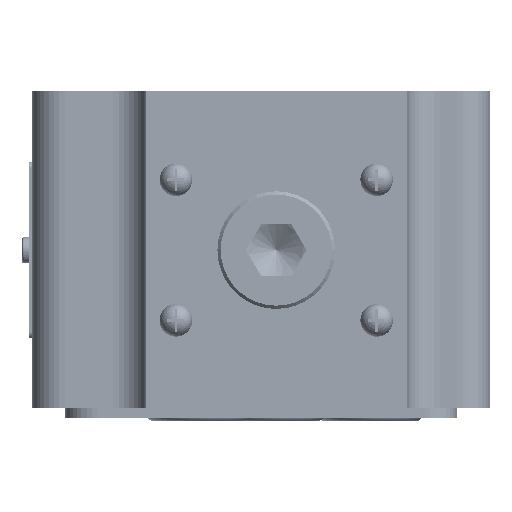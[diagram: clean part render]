
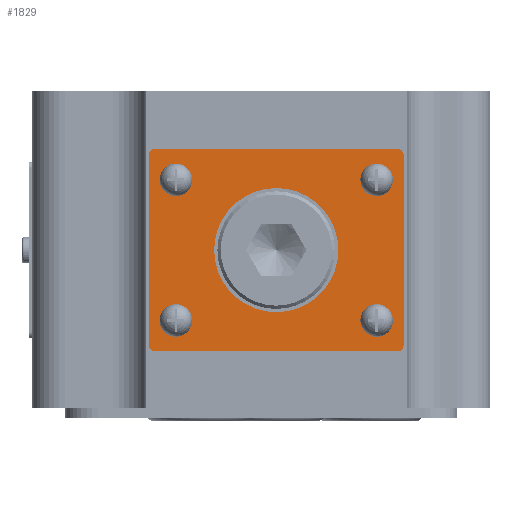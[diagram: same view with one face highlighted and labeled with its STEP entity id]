
A CAD part, left-side view. The second image highlights one B-rep face of the part: STEP entity #1829.
In plain terms, the highlighted planar face has unit normal (-1, 0, 0).
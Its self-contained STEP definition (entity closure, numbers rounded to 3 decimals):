
#628=PLANE('',#9657);
#1217=FACE_BOUND('',#3107,.T.);
#1218=FACE_BOUND('',#3108,.T.);
#1219=FACE_BOUND('',#3109,.T.);
#1220=FACE_BOUND('',#3110,.T.);
#1221=FACE_BOUND('',#3111,.T.);
#1222=FACE_BOUND('',#3112,.T.);
#1829=ADVANCED_FACE('',(#1217,#1218,#1219,#1220,#1221,#1222),#628,.F.);
#3107=EDGE_LOOP('',(#5419,#5420,#5421,#5422,#5423,#5424,#5425,#5426));
#3108=EDGE_LOOP('',(#5427));
#3109=EDGE_LOOP('',(#5428));
#3110=EDGE_LOOP('',(#5429));
#3111=EDGE_LOOP('',(#5430));
#3112=EDGE_LOOP('',(#5431));
#3801=CIRCLE('',#9628,1.);
#3803=CIRCLE('',#9632,1.);
#3805=CIRCLE('',#9636,1.);
#3806=CIRCLE('',#9639,2.);
#3808=CIRCLE('',#9642,9.5);
#3810=CIRCLE('',#9645,2.);
#3812=CIRCLE('',#9648,2.);
#3815=CIRCLE('',#9652,1.);
#3816=CIRCLE('',#9654,2.);
#5419=ORIENTED_EDGE('',*,*,#7814,.F.);
#5420=ORIENTED_EDGE('',*,*,#7843,.F.);
#5421=ORIENTED_EDGE('',*,*,#7832,.F.);
#5422=ORIENTED_EDGE('',*,*,#7829,.F.);
#5423=ORIENTED_EDGE('',*,*,#7826,.F.);
#5424=ORIENTED_EDGE('',*,*,#7823,.F.);
#5425=ORIENTED_EDGE('',*,*,#7820,.F.);
#5426=ORIENTED_EDGE('',*,*,#7817,.F.);
#5427=ORIENTED_EDGE('',*,*,#7840,.T.);
#5428=ORIENTED_EDGE('',*,*,#7838,.T.);
#5429=ORIENTED_EDGE('',*,*,#7836,.T.);
#5430=ORIENTED_EDGE('',*,*,#7834,.T.);
#5431=ORIENTED_EDGE('',*,*,#7844,.T.);
#6849=VERTEX_POINT('',#33988);
#6850=VERTEX_POINT('',#33990);
#6852=VERTEX_POINT('',#33996);
#6854=VERTEX_POINT('',#34002);
#6856=VERTEX_POINT('',#34008);
#6858=VERTEX_POINT('',#34014);
#6860=VERTEX_POINT('',#34020);
#6862=VERTEX_POINT('',#34026);
#6863=VERTEX_POINT('',#34030);
#6865=VERTEX_POINT('',#34035);
#6867=VERTEX_POINT('',#34040);
#6869=VERTEX_POINT('',#34045);
#6871=VERTEX_POINT('',#34053);
#7814=EDGE_CURVE('',#6849,#6850,#8516,.T.);
#7817=EDGE_CURVE('',#6850,#6852,#3801,.T.);
#7820=EDGE_CURVE('',#6852,#6854,#8520,.T.);
#7823=EDGE_CURVE('',#6854,#6856,#3803,.T.);
#7826=EDGE_CURVE('',#6856,#6858,#8524,.T.);
#7829=EDGE_CURVE('',#6858,#6860,#3805,.T.);
#7832=EDGE_CURVE('',#6860,#6862,#8528,.T.);
#7834=EDGE_CURVE('',#6863,#6863,#3806,.T.);
#7836=EDGE_CURVE('',#6865,#6865,#3808,.T.);
#7838=EDGE_CURVE('',#6867,#6867,#3810,.T.);
#7840=EDGE_CURVE('',#6869,#6869,#3812,.T.);
#7843=EDGE_CURVE('',#6862,#6849,#3815,.T.);
#7844=EDGE_CURVE('',#6871,#6871,#3816,.T.);
#8516=LINE('',#33989,#8879);
#8520=LINE('',#34001,#8883);
#8524=LINE('',#34013,#8887);
#8528=LINE('',#34025,#8891);
#8879=VECTOR('',#11472,1.);
#8883=VECTOR('',#11484,1.);
#8887=VECTOR('',#11496,1.);
#8891=VECTOR('',#11508,1.);
#9628=AXIS2_PLACEMENT_3D('',#33995,#11478,#11479);
#9632=AXIS2_PLACEMENT_3D('',#34007,#11490,#11491);
#9636=AXIS2_PLACEMENT_3D('',#34019,#11502,#11503);
#9639=AXIS2_PLACEMENT_3D('',#34029,#11512,#11513);
#9642=AXIS2_PLACEMENT_3D('',#34034,#11518,#11519);
#9645=AXIS2_PLACEMENT_3D('',#34039,#11524,#11525);
#9648=AXIS2_PLACEMENT_3D('',#34044,#11530,#11531);
#9652=AXIS2_PLACEMENT_3D('',#34050,#11538,#11539);
#9654=AXIS2_PLACEMENT_3D('',#34052,#11542,#11543);
#9657=AXIS2_PLACEMENT_3D('',#34057,#11548,#11549);
#11472=DIRECTION('',(0.,0.,-1.));
#11478=DIRECTION('',(1.,0.,0.));
#11479=DIRECTION('',(0.,1.,0.));
#11484=DIRECTION('',(0.,1.,0.));
#11490=DIRECTION('',(1.,0.,0.));
#11491=DIRECTION('',(0.,1.,0.));
#11496=DIRECTION('',(0.,0.,1.));
#11502=DIRECTION('',(1.,0.,0.));
#11503=DIRECTION('',(0.,1.,0.));
#11508=DIRECTION('',(0.,-1.,0.));
#11512=DIRECTION('',(1.,0.,0.));
#11513=DIRECTION('',(0.,1.,0.));
#11518=DIRECTION('',(1.,0.,0.));
#11519=DIRECTION('',(0.,1.,0.));
#11524=DIRECTION('',(1.,0.,0.));
#11525=DIRECTION('',(0.,1.,0.));
#11530=DIRECTION('',(1.,0.,0.));
#11531=DIRECTION('',(0.,1.,0.));
#11538=DIRECTION('',(1.,0.,0.));
#11539=DIRECTION('',(0.,1.,0.));
#11542=DIRECTION('',(1.,0.,0.));
#11543=DIRECTION('',(0.,1.,0.));
#11548=DIRECTION('',(1.,0.,0.));
#11549=DIRECTION('',(0.,1.,0.));
#33988=CARTESIAN_POINT('',(-145.376,43.755,30.75));
#33989=CARTESIAN_POINT('',(-145.376,43.755,30.75));
#33990=CARTESIAN_POINT('',(-145.376,43.755,1.75));
#33995=CARTESIAN_POINT('',(-145.376,44.755,1.75));
#33996=CARTESIAN_POINT('',(-145.376,44.755,0.75));
#34001=CARTESIAN_POINT('',(-145.376,44.755,0.75));
#34002=CARTESIAN_POINT('',(-145.376,81.755,0.75));
#34007=CARTESIAN_POINT('',(-145.376,81.755,1.75));
#34008=CARTESIAN_POINT('',(-145.376,82.755,1.75));
#34013=CARTESIAN_POINT('',(-145.376,82.755,1.75));
#34014=CARTESIAN_POINT('',(-145.376,82.755,30.75));
#34019=CARTESIAN_POINT('',(-145.376,81.755,30.75));
#34020=CARTESIAN_POINT('',(-145.376,81.755,31.75));
#34025=CARTESIAN_POINT('',(-145.376,81.755,31.75));
#34026=CARTESIAN_POINT('',(-145.376,44.755,31.75));
#34029=CARTESIAN_POINT('',(-145.376,78.614,5.495));
#34030=CARTESIAN_POINT('',(-145.376,80.614,5.495));
#34034=CARTESIAN_POINT('',(-145.376,63.255,16.25));
#34035=CARTESIAN_POINT('',(-145.376,72.755,16.25));
#34039=CARTESIAN_POINT('',(-145.376,47.896,27.005));
#34040=CARTESIAN_POINT('',(-145.376,49.896,27.005));
#34044=CARTESIAN_POINT('',(-145.376,47.896,5.495));
#34045=CARTESIAN_POINT('',(-145.376,49.896,5.495));
#34050=CARTESIAN_POINT('',(-145.376,44.755,30.75));
#34052=CARTESIAN_POINT('',(-145.376,78.614,27.005));
#34053=CARTESIAN_POINT('',(-145.376,80.614,27.005));
#34057=CARTESIAN_POINT('',(-145.376,44.755,1.75));
